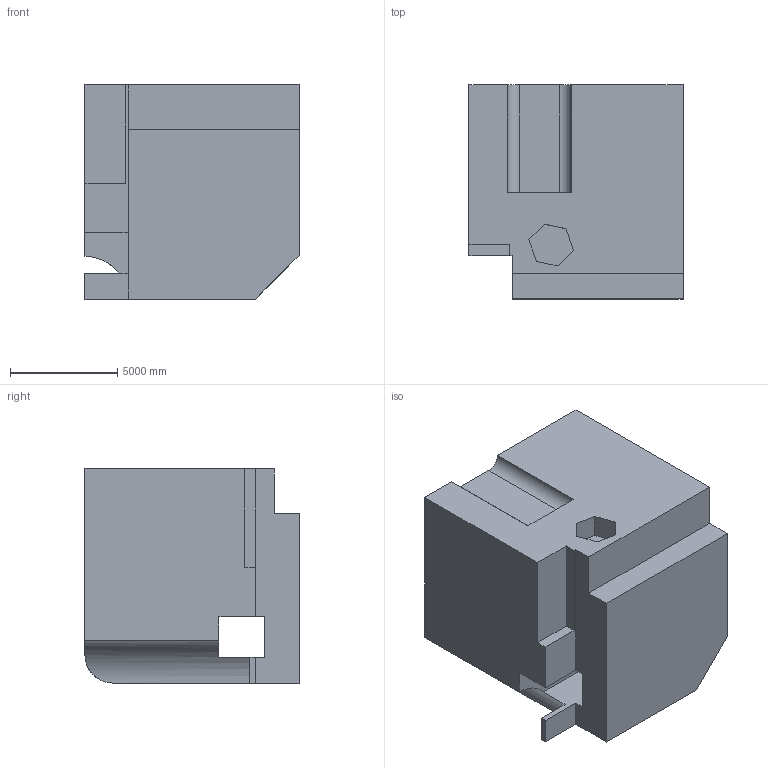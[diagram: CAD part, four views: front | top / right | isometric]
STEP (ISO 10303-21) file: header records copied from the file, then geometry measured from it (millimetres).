
FILE_DESCRIPTION (( 'STEP AP203' ), '1' );
FILE_NAME ('924.STEP', '2022-07-29T14:21:36', ( 'user' ), ( '' ), 'SwSTEP 2.0', 'SolidWorks 2021', '' );
FILE_SCHEMA (( 'CONFIG_CONTROL_DESIGN' ));
Length unit declared in the file: centimetre
Products named in the file (1): 924
Bounding box: 10000 x 10000 x 10000 mm (x, y, z)
Volume: 830767938790.7 mm3; surface area: 650857754.9 mm2
Topology: 1 solids, 1 shells, 40 faces, 111 edges, 74 vertices
Faces by surface type: plane 32, cylinder 8
Entity records: 1426 total; most frequent: CARTESIAN_POINT 306, ORIENTED_EDGE 222, DIRECTION 206, EDGE_CURVE 111, LINE 94, VECTOR 94, VERTEX_POINT 74, AXIS2_PLACEMENT_3D 56
